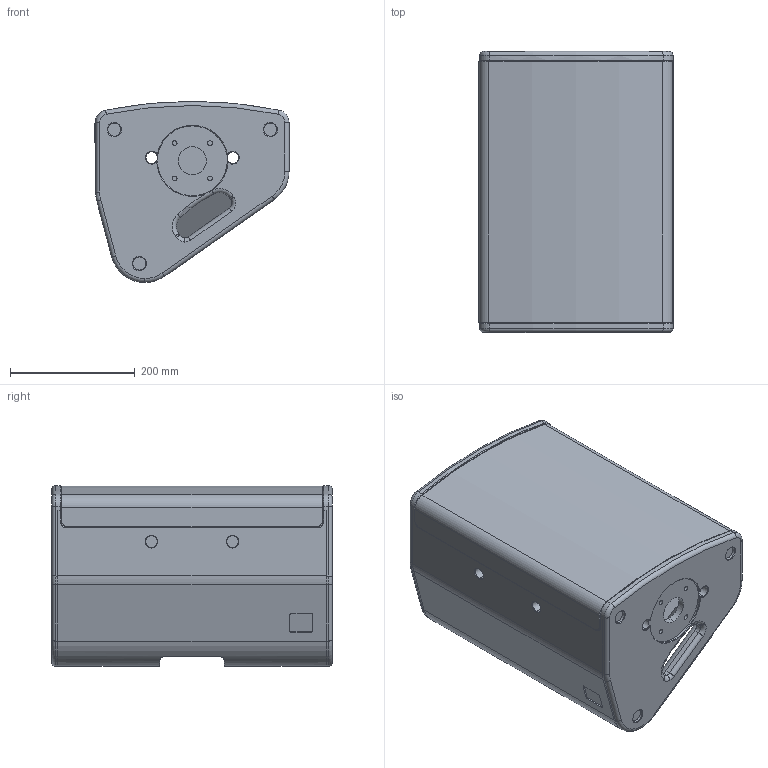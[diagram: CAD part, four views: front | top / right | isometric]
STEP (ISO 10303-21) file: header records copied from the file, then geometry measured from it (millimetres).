
FILE_DESCRIPTION (( 'STEP AP203' ), '1' );
FILE_NAME ('SEEBURG_X4.STEP', '2018-09-20T08:33:39', ( 'Michl' ), ( '' ), 'SwSTEP 2.0', 'SolidWorks 2009', '' );
FILE_SCHEMA (( 'CONFIG_CONTROL_DESIGN' ));
Length unit declared in the file: millimetre
Products named in the file (1): SEEBURG_X4
Bounding box: 311 x 450 x 290 mm (x, y, z)
Volume: 6075589.4 mm3; surface area: 1313751.5 mm2
Topology: 8 solids, 8 shells, 492 faces, 1278 edges, 800 vertices
Faces by surface type: cylinder 208, plane 180, cone 62, torus 36, bspline 6
Entity records: 15630 total; most frequent: CARTESIAN_POINT 2997, DIRECTION 2770, ORIENTED_EDGE 2556, EDGE_CURVE 1278, AXIS2_PLACEMENT_3D 1042, VERTEX_POINT 800, LINE 686, VECTOR 686
